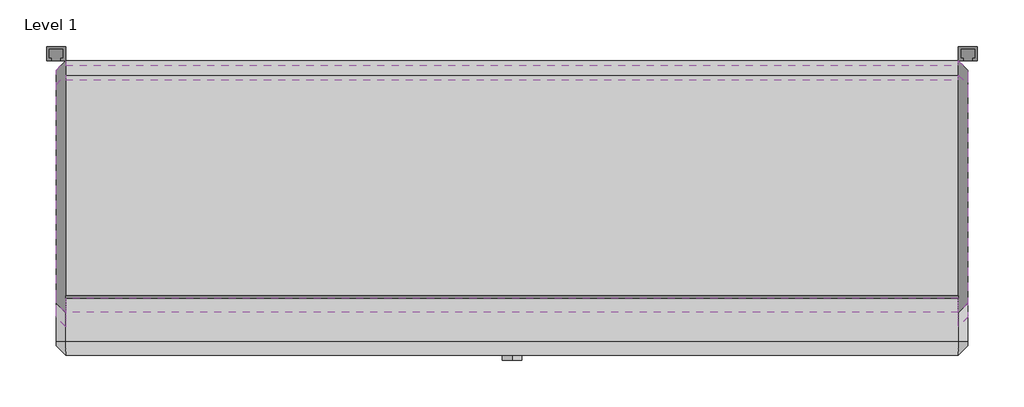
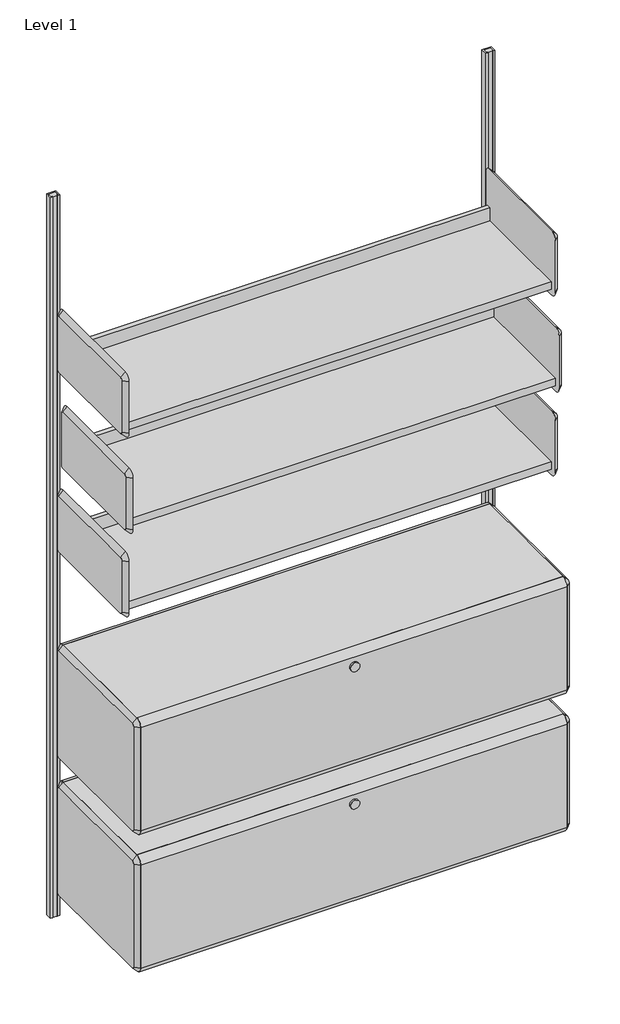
# One storey: 7 furniture elements.
"""IFC4 building model written with IfcOpenShell, lengths in millimetres."""

from ifc_helpers import new_model, si_unit, origin, place, context, project, spatial, transform, mapped, element, save
from components import furniture_f1771141, furniture_f46d5b46, furniture_4d61608e, furniture_0be50922, furniture_ea425779

model = new_model("IFC4")

# Units and contexts
model_context = context("Model", 3, world=origin())
ifc_project = project(units=[si_unit("LENGTHUNIT", "METRE", prefix="MILLI")], contexts=[model_context])

# Site, building, storey
site = spatial("IfcSite", under=ifc_project)
building = spatial("IfcBuilding", under=site)
storey = spatial("IfcBuildingStorey", under=building, Name="Level 1", Elevation=0.0)

# Furniture
placement = place(None, origin())
furniture_shape = furniture_f1771141(model_context)
element("IfcFurniture", 1, ObjectType="HermanMiller_ActionOffice_A3121_B-StyleSuspendedLateralFile : 16\"D x 48\"W", at=placement, inside=storey, context=model_context, shape_type="MappedRepresentation", body=[
    mapped(furniture_shape, transform((609.6, -228.6, 0.0), x_axis=(1.0, 0.0, 0.0), y_axis=(0.0, 1.0, 0.0), z_axis=(0.0, 0.0, 1.0))),
])
element("IfcFurniture", 2, ObjectType="HermanMiller_ActionOffice_A3121_B-StyleSuspendedLateralFile : 16\"D x 48\"W", at=placement, inside=storey, context=model_context, shape_type="MappedRepresentation", body=[
    mapped(furniture_shape, transform((609.6, -228.6, 406.4), x_axis=(1.0, 0.0, 0.0), y_axis=(0.0, 1.0, 0.0), z_axis=(0.0, 0.0, 1.0))),
])
furniture_2_shape = furniture_f46d5b46(model_context)
element("IfcFurniture", 3, ObjectType="HermanMiller_ActionOffice_A3220_B-StyleStorageDisplay : Shelf 13\"D x 48\"W", at=placement, inside=storey, context=model_context, shape_type="MappedRepresentation", body=[
    mapped(furniture_2_shape, transform((733.5420045, -200.025, 0.0), x_axis=(1.0, 0.0, 0.0), y_axis=(0.0, 1.0, 0.0), z_axis=(0.0, 0.0, 1.0))),
])
furniture_3_shape = furniture_4d61608e(model_context)
element("IfcFurniture", 4, ObjectType="HermanMiller_ActionOffice_A3220_B-StyleStorageDisplay : Shelf 13\"D x 48\"W", at=placement, inside=storey, context=model_context, shape_type="MappedRepresentation", body=[
    mapped(furniture_3_shape, transform((733.5420045, -219.075, 0.0), x_axis=(1.0, 0.0, 0.0), y_axis=(0.0, 1.0, 0.0), z_axis=(0.0, 0.0, 1.0))),
])
furniture_4_shape = furniture_0be50922(model_context)
element("IfcFurniture", 5, ObjectType="HermanMiller_ActionOffice_A3220_B-StyleStorageDisplay : Shelf 13\"D x 48\"W", at=placement, inside=storey, context=model_context, shape_type="MappedRepresentation", body=[
    mapped(furniture_4_shape, transform((733.5420045, -200.025, 0.0), x_axis=(1.0, 0.0, 0.0), y_axis=(0.0, 1.0, 0.0), z_axis=(0.0, 0.0, 1.0))),
])
furniture_5_shape = furniture_ea425779(model_context)
element("IfcFurniture", 6, ObjectType="HermanMiller_ActionOffice_AO213_WallStrip : 84\"H", at=placement, inside=storey, context=model_context, shape_type="MappedRepresentation", body=[
    mapped(furniture_5_shape, transform((1219.2, 0.0, 0.0), x_axis=(1.0, 0.0, 0.0), y_axis=(0.0, 1.0, 0.0), z_axis=(0.0, 0.0, 1.0))),
])
element("IfcFurniture", 7, ObjectType="HermanMiller_ActionOffice_AO213_WallStrip : 84\"H", at=placement, inside=storey, context=model_context, shape_type="MappedRepresentation", body=[
    mapped(furniture_5_shape, transform((0.0, 0.0, 0.0), x_axis=(1.0, 0.0, 0.0), y_axis=(0.0, 1.0, 0.0), z_axis=(0.0, 0.0, 1.0))),
])

save(model, "model.ifc")
